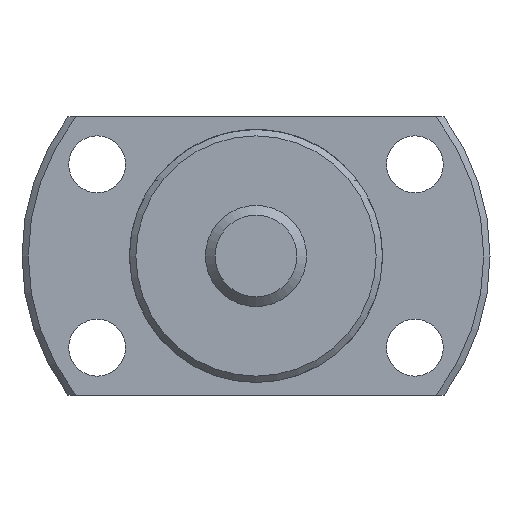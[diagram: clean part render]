
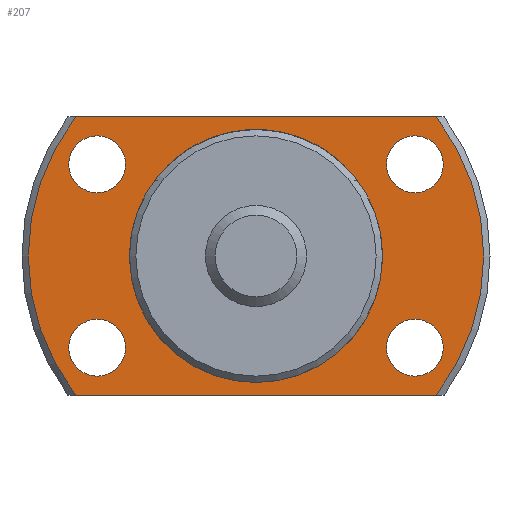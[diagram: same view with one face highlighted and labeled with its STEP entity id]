
A CAD part, left-side view. The second image highlights one B-rep face of the part: STEP entity #207.
In plain terms, the highlighted planar face has unit normal (-1, 0, 0).
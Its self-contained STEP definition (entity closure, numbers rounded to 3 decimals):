
#207 = ADVANCED_FACE( '', ( #315, #316, #317, #318, #319, #320 ), #321, .F. );
#315 = FACE_OUTER_BOUND( '', #448, .T. );
#316 = FACE_BOUND( '', #449, .T. );
#317 = FACE_BOUND( '', #450, .T. );
#318 = FACE_BOUND( '', #451, .T. );
#319 = FACE_BOUND( '', #452, .T. );
#320 = FACE_BOUND( '', #453, .T. );
#321 = PLANE( '', #454 );
#448 = EDGE_LOOP( '', ( #738, #739, #740, #741 ) );
#449 = EDGE_LOOP( '', ( #742 ) );
#450 = EDGE_LOOP( '', ( #743 ) );
#451 = EDGE_LOOP( '', ( #744 ) );
#452 = EDGE_LOOP( '', ( #745 ) );
#453 = EDGE_LOOP( '', ( #746 ) );
#454 = AXIS2_PLACEMENT_3D( '', #747, #748, #749 );
#738 = ORIENTED_EDGE( '', *, *, #889, .F. );
#739 = ORIENTED_EDGE( '', *, *, #913, .F. );
#740 = ORIENTED_EDGE( '', *, *, #905, .F. );
#741 = ORIENTED_EDGE( '', *, *, #887, .F. );
#742 = ORIENTED_EDGE( '', *, *, #914, .T. );
#743 = ORIENTED_EDGE( '', *, *, #915, .T. );
#744 = ORIENTED_EDGE( '', *, *, #916, .T. );
#745 = ORIENTED_EDGE( '', *, *, #917, .T. );
#746 = ORIENTED_EDGE( '', *, *, #903, .T. );
#747 = CARTESIAN_POINT( '', ( 19., 9.85, 0. ) );
#748 = DIRECTION( '', ( 1., 0., 0. ) );
#749 = DIRECTION( '', ( 0., 0., -1. ) );
#887 = EDGE_CURVE( '', #1032, #1034, #1035, .T. );
#889 = EDGE_CURVE( '', #1037, #1032, #1038, .T. );
#903 = EDGE_CURVE( '', #1057, #1057, #1058, .T. );
#905 = EDGE_CURVE( '', #1034, #1060, #1061, .T. );
#913 = EDGE_CURVE( '', #1060, #1037, #1073, .T. );
#914 = EDGE_CURVE( '', #1074, #1074, #1075, .T. );
#915 = EDGE_CURVE( '', #1076, #1076, #1077, .T. );
#916 = EDGE_CURVE( '', #1078, #1078, #1079, .T. );
#917 = EDGE_CURVE( '', #1080, #1080, #1081, .T. );
#1032 = VERTEX_POINT( '', #1349 );
#1034 = VERTEX_POINT( '', #1354 );
#1035 = LINE( '', #1355, #1356 );
#1037 = VERTEX_POINT( '', #1361 );
#1038 = CIRCLE( '', #1362, 18. );
#1057 = VERTEX_POINT( '', #1387 );
#1058 = CIRCLE( '', #1388, 9.85 );
#1060 = VERTEX_POINT( '', #1391 );
#1061 = CIRCLE( '', #1392, 18. );
#1073 = LINE( '', #1411, #1412 );
#1074 = VERTEX_POINT( '', #1413 );
#1075 = CIRCLE( '', #1414, 2.25 );
#1076 = VERTEX_POINT( '', #1415 );
#1077 = CIRCLE( '', #1416, 2.25 );
#1078 = VERTEX_POINT( '', #1417 );
#1079 = CIRCLE( '', #1418, 2.25 );
#1080 = VERTEX_POINT( '', #1419 );
#1081 = CIRCLE( '', #1420, 2.25 );
#1349 = CARTESIAN_POINT( '', ( 19., 14.248, 11. ) );
#1354 = CARTESIAN_POINT( '', ( 19., -14.248, 11. ) );
#1355 = CARTESIAN_POINT( '', ( 19., 23.5, 11. ) );
#1356 = VECTOR( '', #1527, 1000. );
#1361 = CARTESIAN_POINT( '', ( 19., 14.248, -11. ) );
#1362 = AXIS2_PLACEMENT_3D( '', #1528, #1529, #1530 );
#1387 = CARTESIAN_POINT( '', ( 19., 0., -9.85 ) );
#1388 = AXIS2_PLACEMENT_3D( '', #1561, #1562, #1563 );
#1391 = CARTESIAN_POINT( '', ( 19., -14.248, -11. ) );
#1392 = AXIS2_PLACEMENT_3D( '', #1565, #1566, #1567 );
#1411 = CARTESIAN_POINT( '', ( 19., -23.5, -11. ) );
#1412 = VECTOR( '', #1581, 1000. );
#1413 = CARTESIAN_POINT( '', ( 19., -12.557, -9.5 ) );
#1414 = AXIS2_PLACEMENT_3D( '', #1582, #1583, #1584 );
#1415 = CARTESIAN_POINT( '', ( 19., -12.557, 5. ) );
#1416 = AXIS2_PLACEMENT_3D( '', #1585, #1586, #1587 );
#1417 = CARTESIAN_POINT( '', ( 19., 12.557, -9.5 ) );
#1418 = AXIS2_PLACEMENT_3D( '', #1588, #1589, #1590 );
#1419 = CARTESIAN_POINT( '', ( 19., 12.557, 5. ) );
#1420 = AXIS2_PLACEMENT_3D( '', #1591, #1592, #1593 );
#1527 = DIRECTION( '', ( 0., -1., 0. ) );
#1528 = CARTESIAN_POINT( '', ( 19., 0., 0. ) );
#1529 = DIRECTION( '', ( 1., 0., 0. ) );
#1530 = DIRECTION( '', ( 0., 0., -1. ) );
#1561 = CARTESIAN_POINT( '', ( 19., 0., 0. ) );
#1562 = DIRECTION( '', ( 1., 0., 0. ) );
#1563 = DIRECTION( '', ( 0., 0., -1. ) );
#1565 = CARTESIAN_POINT( '', ( 19., 0., 0. ) );
#1566 = DIRECTION( '', ( 1., 0., 0. ) );
#1567 = DIRECTION( '', ( 0., 0., -1. ) );
#1581 = DIRECTION( '', ( 0., 1., 0. ) );
#1582 = CARTESIAN_POINT( '', ( 19., -12.557, -7.25 ) );
#1583 = DIRECTION( '', ( 1., 0., 0. ) );
#1584 = DIRECTION( '', ( 0., 0., -1. ) );
#1585 = CARTESIAN_POINT( '', ( 19., -12.557, 7.25 ) );
#1586 = DIRECTION( '', ( 1., 0., 0. ) );
#1587 = DIRECTION( '', ( 0., 0., -1. ) );
#1588 = CARTESIAN_POINT( '', ( 19., 12.557, -7.25 ) );
#1589 = DIRECTION( '', ( 1., 0., 0. ) );
#1590 = DIRECTION( '', ( 0., 0., -1. ) );
#1591 = CARTESIAN_POINT( '', ( 19., 12.557, 7.25 ) );
#1592 = DIRECTION( '', ( 1., 0., 0. ) );
#1593 = DIRECTION( '', ( 0., 0., -1. ) );
